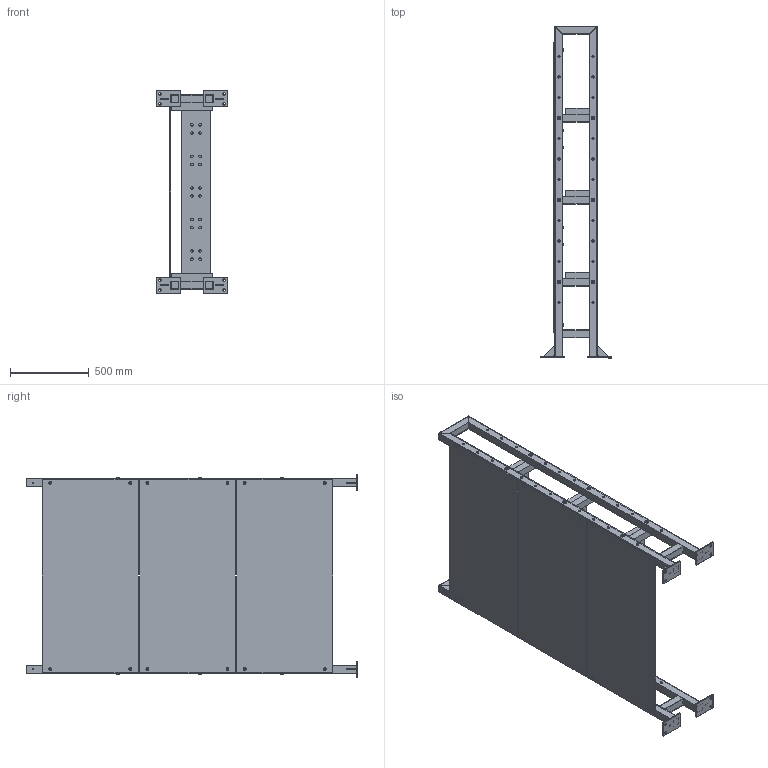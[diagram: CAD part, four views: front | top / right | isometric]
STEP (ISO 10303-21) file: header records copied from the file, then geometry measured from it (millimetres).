
FILE_DESCRIPTION (( 'STEP AP214' ), '1' );
FILE_NAME ('AS-R3_WEBSITE.step', '2025-08-11T09:11:22', ( '' ), ( '' ), 'SwSTEP 2.0', 'SolidWorks 2024', '' );
FILE_SCHEMA (( 'AUTOMOTIVE_DESIGN' ));
Length unit declared in the file: inch
Products named in the file (18): 96595A101_High-Strength Steel Serrated Flange Locknut_WEBSITE_96595A101; AS-RS_WEBSITE; AS-R-6_WEBSITE; AS-R-8_WEBSITE; AS-R-3_WEBSITE; AS-R-7_WEBSITE; AS-R-1_WEBSITE; AS-R-5_WEBSITE; 91239A625_Button Head Hex Drive Screw_WEBSITE_91239A625; AS-RU_WEBSITE; AS-R3_WEBSITE; AS-R-2_WEBSITE_2; AS-R-4_WEBSITE; 91100A150_Zinc-Plated Steel Oversized Washer_WEBSITE_91100A150; 91306A771_Button Head Hex Drive Screws_WEBSITE_91306A771; 91166A290_Zinc-Plated Steel Washer_WEBSITE_91166A290; 91595A640_Dowel Pin_WEBSITE_91595A640; 91290A626_Alloy Steel Socket Head Screw_WEBSITE_91290A626
Assembly tree (69 placements, depth 3):
  AS-R3_WEBSITE
    AS-RU_WEBSITE  x2
      AS-R-3_WEBSITE
      AS-R-4_WEBSITE
      AS-R-5_WEBSITE
      AS-R-6_WEBSITE
      AS-R-7_WEBSITE
    AS-RS_WEBSITE  x3
      AS-R-1_WEBSITE
      AS-R-2_WEBSITE_2
      91290A626_Alloy Steel Socket Head Screw_WEBSITE_91290A626
      91239A625_Button Head Hex Drive Screw_WEBSITE_91239A625
      91166A290_Zinc-Plated Steel Washer_WEBSITE_91166A290
      91595A640_Dowel Pin_WEBSITE_91595A640
    AS-R-8_WEBSITE  x3
    91306A771_Button Head Hex Drive Screws_WEBSITE_91306A771  x12
    91100A150_Zinc-Plated Steel Oversized Washer_WEBSITE_91100A150  x12
    96595A101_High-Strength Steel Serrated Flange Locknut_WEBSITE_96595A101  x12
Bounding box: 444.5 x 2101.85 x 1282.7 mm (x, y, z)
Volume: 46203325.9 mm3; surface area: 10161552.3 mm2
Topology: 118 solids, 118 shells, 2150 faces, 4546 edges, 2896 vertices
Faces by surface type: plane 1132, cylinder 496, cone 312, bspline 102, torus 72, sphere 36
Full cylindrical faces by diameter (mm): 6 x36, 6.4 x12, 7.239 x12, 7.95 x20, 10 x6, 10.046 x6, 10.2 x24, 12 x24, 13 x12, 14 x116, 14.2 x12, 15.875 x8, 16.51 x60, 17.4 x12, 18 x24, 19.812 x48, 20 x24, 21 x12, 24 x12
Entity records: 11420 total; most frequent: CARTESIAN_POINT 2979, DIRECTION 1626, ORIENTED_EDGE 1238, AXIS2_PLACEMENT_3D 658, EDGE_LOOP 640, EDGE_CURVE 619, VERTEX_POINT 479, FACE_OUTER_BOUND 469
